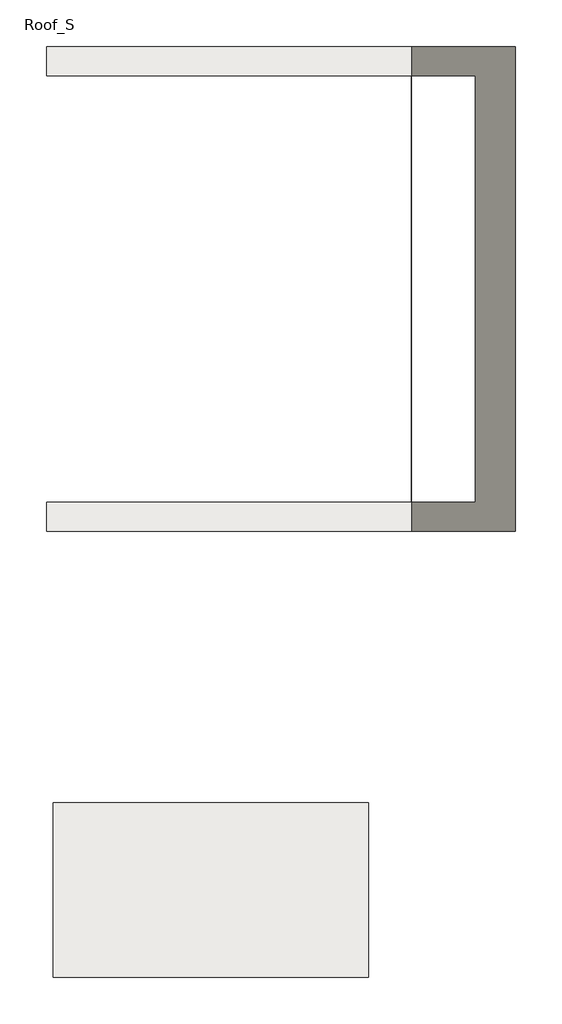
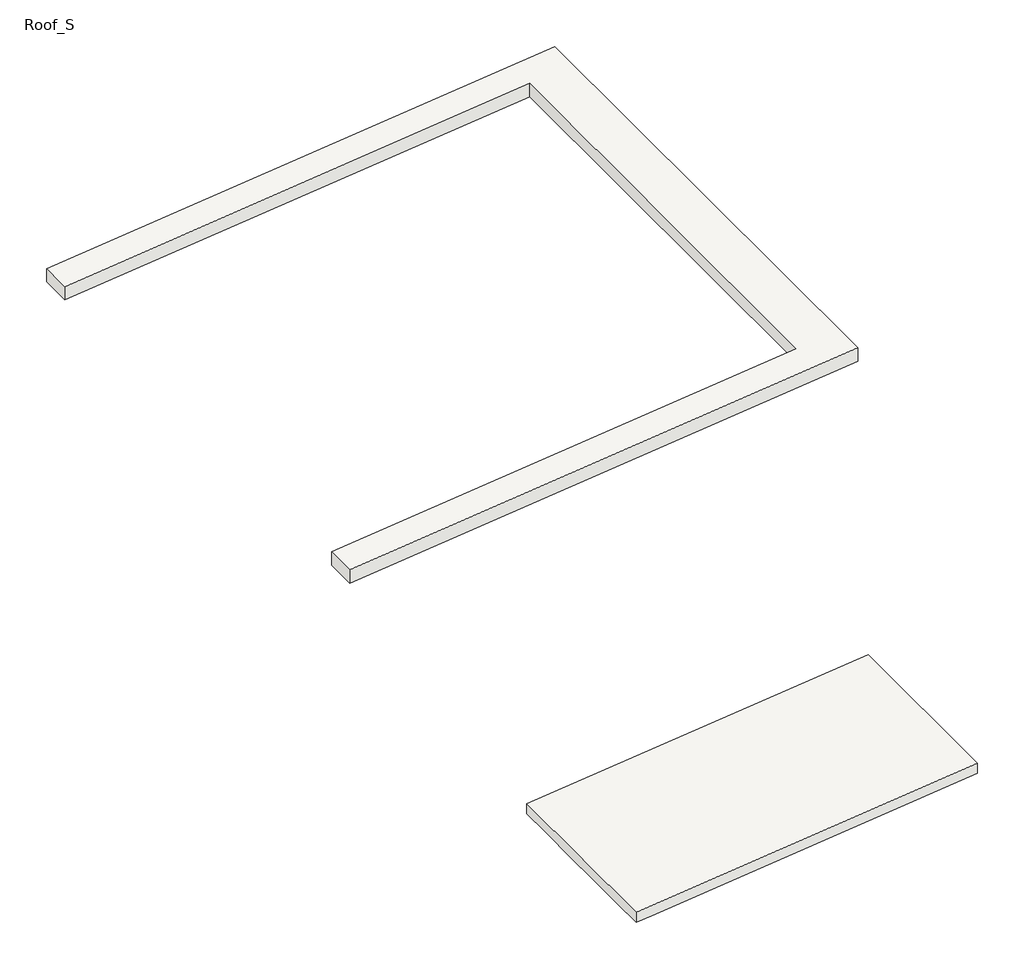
# One storey: 2 slabs.
"""IFC4 building model written with IfcOpenShell, lengths in millimetres."""

from ifc_helpers import new_model, si_unit, origin, place, context, project, spatial, faceted_brep, element, save

model = new_model("IFC4")

# Units and contexts
model_context = context("Model", 3, world=origin())
ifc_project = project(units=[si_unit("LENGTHUNIT", "METRE", prefix="MILLI")], contexts=[model_context])

# Site, building, storey
site = spatial("IfcSite", under=ifc_project)
building = spatial("IfcBuilding", under=site)
storey = spatial("IfcBuildingStorey", under=building, Name="Roof_S", Elevation=38595.3)

# Slabs
placement = place(None, origin())
element("IfcSlab", 1, ObjectType="A_structure", at=placement, inside=storey, context=model_context, shape_type="Brep", body=[
    faceted_brep([(-21610.0591382, 21759.2695005, 38102.0297238), (-6860.2204607, 21759.2695005, 39751.8390988), (-6860.2204607, 6519.2695005, 39751.8390988), (-21610.0591382, 6519.2695005, 38102.0297238), (-21610.0591382, 7433.6695005, 38102.0297238), (-8114.3454607, 7433.6695005, 39611.5618234), (-8114.3454607, 20844.8695005, 39611.5618234), (-21610.0591382, 20844.8695005, 38102.0297238), (-21610.0591382, 21759.2695005, 38510.9640625), (-21610.0591382, 20844.8695005, 38510.9640625), (-8114.3454607, 20844.8695005, 40020.4961621), (-8114.3454607, 7433.6695005, 40020.4961621), (-21610.0591382, 7433.6695005, 38510.9640625), (-21610.0591382, 6519.2695005, 38510.9640625), (-6860.2204607, 6519.2695005, 40160.7734375), (-6860.2204607, 21759.2695005, 40160.7734375)], [[[0, 1, 2, 3, 4, 5, 6, 7]], [[8, 9, 10, 11, 12, 13, 14, 15]], [[1, 0, 8, 15]], [[2, 1, 15, 14]], [[3, 2, 14, 13]], [[4, 3, 13, 12]], [[5, 4, 12, 11]], [[6, 5, 11, 10]], [[7, 6, 10, 9]], [[0, 7, 9, 8]]]),
])
element("IfcSlab", 2, ObjectType="B_structure", at=placement, inside=storey, context=model_context, shape_type="Brep", body=[
    faceted_brep([(-11485.0467002, -2015.1304995, 37228.5462951), (-11485.0467002, -7501.5304995, 37228.5462951), (-20943.7483082, -7501.5304995, 36170.6135377), (-21392.0570572, -7501.5304995, 36120.4712951), (-21392.0570572, -6587.1304995, 36120.4712951), (-21392.0570572, -5215.5304995, 36120.4712951), (-21392.0570572, -4301.1304995, 36120.4712951), (-21392.0570572, -2929.5304995, 36120.4712951), (-21392.0570572, -2015.1304995, 36120.4712951), (-20943.7483082, -2015.1304995, 36170.6135377), (-11485.0467002, -2015.1304995, 37535.246875), (-21392.0570572, -2015.1304995, 36427.171875), (-21392.0570572, -7501.5304995, 36427.171875), (-11485.0467002, -7501.5304995, 37535.246875), (-21392.0570572, -7501.5304995, 36402.3024462), (-21392.0570572, -2015.1304995, 36402.3024462)], [[[0, 1, 2, 3, 4, 5, 6, 7, 8, 9]], [[10, 11, 12, 13]], [[1, 0, 10, 13]], [[3, 2, 1, 13, 12, 14]], [[8, 7, 6, 5, 4, 3, 14, 12, 11, 15]], [[0, 9, 8, 15, 11, 10]]]),
])

save(model, "model.ifc")
